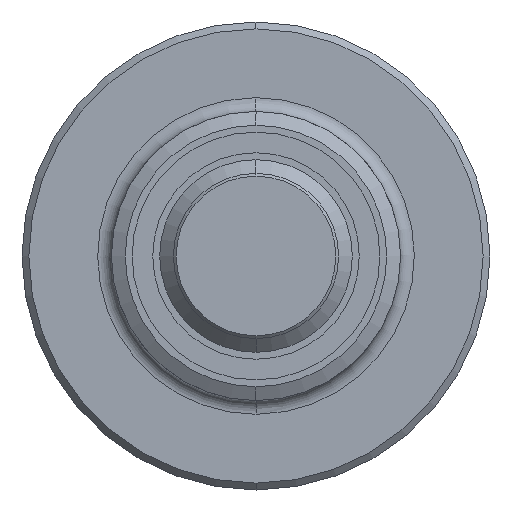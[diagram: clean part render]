
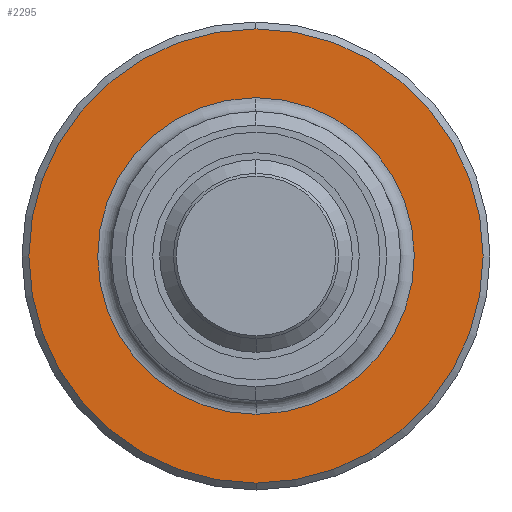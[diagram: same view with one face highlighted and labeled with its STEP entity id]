
A CAD part, left-side view. The second image highlights one B-rep face of the part: STEP entity #2295.
In plain terms, the highlighted planar face has unit normal (-1, 0, 0).
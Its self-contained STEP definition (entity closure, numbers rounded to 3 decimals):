
#330=CARTESIAN_POINT('',(-4.,0.,0.));
#331=DIRECTION('',(1.,0.,0.));
#332=DIRECTION('',(0.,0.,1.));
#333=AXIS2_PLACEMENT_3D('',#330,#331,#332);
#335=CARTESIAN_POINT('',(-4.,0.,
0.));
#336=DIRECTION('',(1.,0.,0.));
#337=DIRECTION('',(0.,0.,-1.));
#338=AXIS2_PLACEMENT_3D('',#335,#336,#337);
#340=CARTESIAN_POINT('',(-4.,0.,0.));
#341=DIRECTION('',(-1.,0.,0.));
#342=DIRECTION('',(0.,0.,1.));
#343=AXIS2_PLACEMENT_3D('',#340,#341,#342);
#345=CARTESIAN_POINT('',(-4.,0.,0.));
#346=DIRECTION('',(-1.,0.,0.));
#347=DIRECTION('',(0.,0.011,1.));
#348=AXIS2_PLACEMENT_3D('',#345,#346,#347);
#350=CARTESIAN_POINT('',(-4.,0.,0.));
#351=DIRECTION('',(-1.,0.,0.));
#352=DIRECTION('',(0.,0.,-1.));
#353=AXIS2_PLACEMENT_3D('',#350,#351,#352);
#355=CARTESIAN_POINT('',(-4.,0.,0.));
#356=DIRECTION('',(-1.,0.,0.));
#357=DIRECTION('',(0.,-0.011,-1.));
#358=AXIS2_PLACEMENT_3D('',#355,#356,#357);
#1737=CARTESIAN_POINT('',(-4.,0.,
-16.5));
#1738=CARTESIAN_POINT('',(-4.,0.,
16.5));
#1739=VERTEX_POINT('',#1737);
#1740=VERTEX_POINT('',#1738);
#1741=CARTESIAN_POINT('',(-4.,0.126,11.499));
#1742=CARTESIAN_POINT('',(-4.,0.,-11.5));
#1743=VERTEX_POINT('',#1741);
#1744=VERTEX_POINT('',#1742);
#1745=CARTESIAN_POINT('',(-4.,0.,11.5));
#1746=VERTEX_POINT('',#1745);
#1747=CARTESIAN_POINT('',(-4.,-0.126,-11.499));
#1748=VERTEX_POINT('',#1747);
#2275=CARTESIAN_POINT('',(-4.,0.,0.));
#2276=DIRECTION('',(1.,0.,0.));
#2277=DIRECTION('',(0.,0.,1.));
#2278=AXIS2_PLACEMENT_3D('',#2275,#2276,#2277);
#2279=PLANE('',#2278);
#2281=ORIENTED_EDGE('',*,*,#2280,.T.);
#2282=ORIENTED_EDGE('',*,*,#2265,.T.);
#2283=EDGE_LOOP('',(#2281,#2282));
#2284=FACE_OUTER_BOUND('',#2283,.F.);
#2286=ORIENTED_EDGE('',*,*,#2285,.T.);
#2288=ORIENTED_EDGE('',*,*,#2287,.T.);
#2290=ORIENTED_EDGE('',*,*,#2289,.T.);
#2292=ORIENTED_EDGE('',*,*,#2291,.T.);
#2293=EDGE_LOOP('',(#2286,#2288,#2290,#2292));
#2294=FACE_BOUND('',#2293,.F.);
#2295=ADVANCED_FACE('',(#2284,#2294),#2279,.F.);
#334=CIRCLE('',#333,16.5);
#339=CIRCLE('',#338,16.5);
#344=CIRCLE('',#343,11.5);
#349=CIRCLE('',#348,11.5);
#354=CIRCLE('',#353,11.5);
#359=CIRCLE('',#358,11.5);
#2265=EDGE_CURVE('',#1739,#1740,#339,.T.);
#2280=EDGE_CURVE('',#1740,#1739,#334,.T.);
#2285=EDGE_CURVE('',#1746,#1743,#344,.T.);
#2287=EDGE_CURVE('',#1743,#1744,#349,.T.);
#2289=EDGE_CURVE('',#1744,#1748,#354,.T.);
#2291=EDGE_CURVE('',#1748,#1746,#359,.T.);
